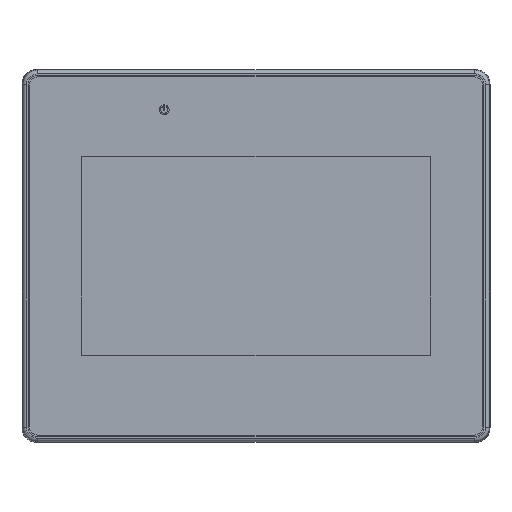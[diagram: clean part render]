
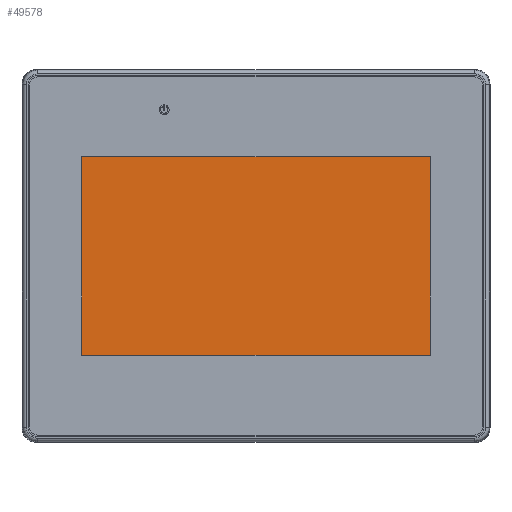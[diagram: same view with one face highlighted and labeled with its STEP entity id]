
A CAD part, top view. The second image highlights one B-rep face of the part: STEP entity #49578.
In plain terms, the highlighted planar face has unit normal (0, 0, 1).
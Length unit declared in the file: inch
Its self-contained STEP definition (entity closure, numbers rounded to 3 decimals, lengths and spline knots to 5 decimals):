
#2833 = CARTESIAN_POINT ( 'NONE',  ( -1.87795, -1.06693, 0.00709 ) ) ;
#3284 = CARTESIAN_POINT ( 'NONE',  ( -2.34941, 1.8376, 0.00709 ) ) ;
#3452 = EDGE_CURVE ( 'NONE', #27882, #81423, #41133, .T. ) ;
#5091 = ORIENTED_EDGE ( 'NONE', *, *, #10189, .F. ) ;
#6535 = DIRECTION ( 'NONE',  ( 0., -1., 0. ) ) ;
#9670 = DIRECTION ( 'NONE',  ( 0., 1., 0. ) ) ;
#10189 = EDGE_CURVE ( 'NONE', #113114, #27882, #24069, .T. ) ;
#13242 = DIRECTION ( 'NONE',  ( 1., 0., 0. ) ) ;
#19673 = ORIENTED_EDGE ( 'NONE', *, *, #65027, .F. ) ;
#19706 = EDGE_CURVE ( 'NONE', #29967, #113114, #120304, .T. ) ;
#20058 = AXIS2_PLACEMENT_3D ( 'NONE', #3284, #76960, #13242 ) ;
#20317 = ORIENTED_EDGE ( 'NONE', *, *, #19706, .F. ) ;
#21025 = VECTOR ( 'NONE', #82260, 39.37008 ) ;
#22148 = VECTOR ( 'NONE', #40534, 39.37008 ) ;
#24069 = LINE ( 'NONE', #75834, #58091 ) ;
#27882 = VERTEX_POINT ( 'NONE', #63211 ) ;
#29967 = VERTEX_POINT ( 'NONE', #90189 ) ;
#30623 = ORIENTED_EDGE ( 'NONE', *, *, #3452, .F. ) ;
#40534 = DIRECTION ( 'NONE',  ( 1., 0., 0. ) ) ;
#41133 = LINE ( 'NONE', #89177, #22148 ) ;
#49578 = ADVANCED_FACE ( 'NONE', ( #95050 ), #66934, .T. ) ;
#58091 = VECTOR ( 'NONE', #9670, 39.37008 ) ;
#63211 = CARTESIAN_POINT ( 'NONE',  ( -1.87795, 1.06693, 0.00709 ) ) ;
#65027 = EDGE_CURVE ( 'NONE', #81423, #29967, #100776, .T. ) ;
#66934 = PLANE ( 'NONE',  #20058 ) ;
#75834 = CARTESIAN_POINT ( 'NONE',  ( -1.87795, 1.8376, 0.00709 ) ) ;
#76960 = DIRECTION ( 'NONE',  ( 0., 0., 1. ) ) ;
#81423 = VERTEX_POINT ( 'NONE', #108073 ) ;
#82260 = DIRECTION ( 'NONE',  ( -1., 0., 0. ) ) ;
#83271 = CARTESIAN_POINT ( 'NONE',  ( 1.87795, 1.8376, 0.00709 ) ) ;
#89177 = CARTESIAN_POINT ( 'NONE',  ( -2.34941, 1.06693, 0.00709 ) ) ;
#90189 = CARTESIAN_POINT ( 'NONE',  ( 1.87795, -1.06693, 0.00709 ) ) ;
#90987 = CARTESIAN_POINT ( 'NONE',  ( -2.34941, -1.06693, 0.00709 ) ) ;
#95050 = FACE_OUTER_BOUND ( 'NONE', #113042, .T. ) ;
#100776 = LINE ( 'NONE', #83271, #105511 ) ;
#105511 = VECTOR ( 'NONE', #6535, 39.37008 ) ;
#108073 = CARTESIAN_POINT ( 'NONE',  ( 1.87795, 1.06693, 0.00709 ) ) ;
#113042 = EDGE_LOOP ( 'NONE', ( #5091, #20317, #19673, #30623 ) ) ;
#113114 = VERTEX_POINT ( 'NONE', #2833 ) ;
#120304 = LINE ( 'NONE', #90987, #21025 ) ;
